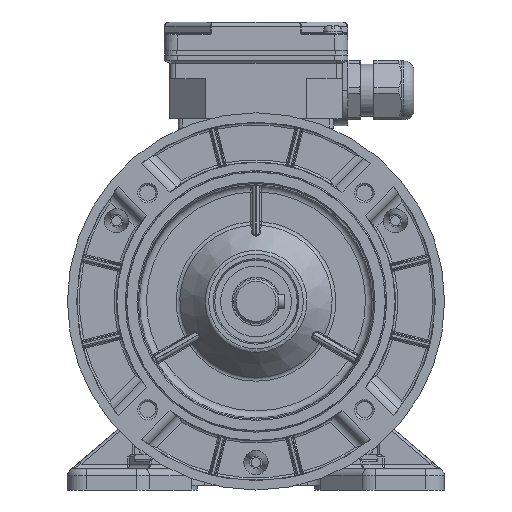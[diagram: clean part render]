
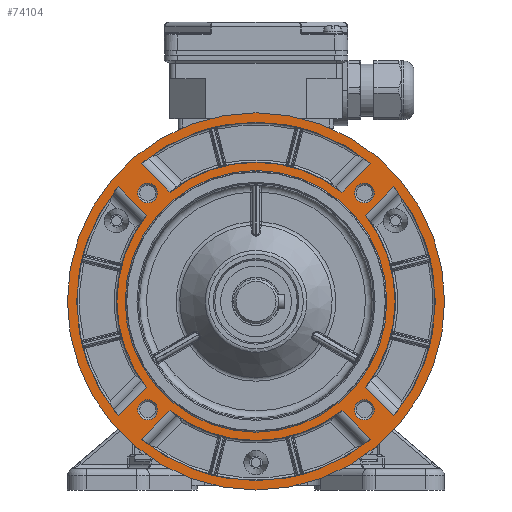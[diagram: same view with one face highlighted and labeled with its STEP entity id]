
A CAD part, left-side view. The second image highlights one B-rep face of the part: STEP entity #74104.
In plain terms, the highlighted planar face has unit normal (-1, 0, 0).
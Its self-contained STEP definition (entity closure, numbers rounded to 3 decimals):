
#4482=CIRCLE('',#78009,80.);
#4498=CIRCLE('',#78047,55.5);
#4499=CIRCLE('',#78048,4.2);
#4500=CIRCLE('',#78049,4.2);
#4501=CIRCLE('',#78050,4.2);
#4502=CIRCLE('',#78051,4.2);
#4503=CIRCLE('',#78052,59.);
#4504=CIRCLE('',#78053,76.);
#4505=CIRCLE('',#78054,59.);
#4506=CIRCLE('',#78055,76.);
#4507=CIRCLE('',#78056,59.);
#4508=CIRCLE('',#78057,76.);
#4509=CIRCLE('',#78058,59.);
#4510=CIRCLE('',#78059,76.);
#11921=ORIENTED_EDGE('',*,*,#25176,.T.);
#11922=ORIENTED_EDGE('',*,*,#25177,.T.);
#11923=ORIENTED_EDGE('',*,*,#25178,.T.);
#11924=ORIENTED_EDGE('',*,*,#25179,.T.);
#11925=ORIENTED_EDGE('',*,*,#25180,.T.);
#11926=ORIENTED_EDGE('',*,*,#25154,.T.);
#11927=ORIENTED_EDGE('',*,*,#25181,.T.);
#11928=ORIENTED_EDGE('',*,*,#25182,.T.);
#11929=ORIENTED_EDGE('',*,*,#25183,.F.);
#11930=ORIENTED_EDGE('',*,*,#25184,.F.);
#11931=ORIENTED_EDGE('',*,*,#25185,.T.);
#11932=ORIENTED_EDGE('',*,*,#25186,.F.);
#11933=ORIENTED_EDGE('',*,*,#25187,.F.);
#11934=ORIENTED_EDGE('',*,*,#25188,.T.);
#11935=ORIENTED_EDGE('',*,*,#25189,.T.);
#11936=ORIENTED_EDGE('',*,*,#25190,.T.);
#11937=ORIENTED_EDGE('',*,*,#25191,.F.);
#11938=ORIENTED_EDGE('',*,*,#25192,.F.);
#11939=ORIENTED_EDGE('',*,*,#25193,.T.);
#11940=ORIENTED_EDGE('',*,*,#25194,.T.);
#11941=ORIENTED_EDGE('',*,*,#25195,.F.);
#11942=ORIENTED_EDGE('',*,*,#25196,.F.);
#25154=EDGE_CURVE('',#32223,#32223,#4482,.T.);
#25176=EDGE_CURVE('',#32229,#32229,#4498,.F.);
#25177=EDGE_CURVE('',#32230,#32230,#4499,.F.);
#25178=EDGE_CURVE('',#32231,#32231,#4500,.F.);
#25179=EDGE_CURVE('',#32232,#32232,#4501,.F.);
#25180=EDGE_CURVE('',#32233,#32233,#4502,.F.);
#25181=EDGE_CURVE('',#32234,#32235,#36793,.T.);
#25182=EDGE_CURVE('',#32235,#32236,#4503,.T.);
#25183=EDGE_CURVE('',#32237,#32236,#36794,.T.);
#25184=EDGE_CURVE('',#32234,#32237,#4504,.T.);
#25185=EDGE_CURVE('',#32238,#32239,#4505,.T.);
#25186=EDGE_CURVE('',#32240,#32239,#36795,.T.);
#25187=EDGE_CURVE('',#32241,#32240,#4506,.T.);
#25188=EDGE_CURVE('',#32241,#32238,#36796,.T.);
#25189=EDGE_CURVE('',#32242,#32243,#36797,.T.);
#25190=EDGE_CURVE('',#32243,#32244,#4507,.T.);
#25191=EDGE_CURVE('',#32245,#32244,#36798,.T.);
#25192=EDGE_CURVE('',#32242,#32245,#4508,.T.);
#25193=EDGE_CURVE('',#32246,#32247,#36799,.T.);
#25194=EDGE_CURVE('',#32247,#32248,#4509,.T.);
#25195=EDGE_CURVE('',#32249,#32248,#36800,.T.);
#25196=EDGE_CURVE('',#32246,#32249,#4510,.T.);
#32223=VERTEX_POINT('',#108914);
#32229=VERTEX_POINT('',#108976);
#32230=VERTEX_POINT('',#108978);
#32231=VERTEX_POINT('',#108980);
#32232=VERTEX_POINT('',#108982);
#32233=VERTEX_POINT('',#108984);
#32234=VERTEX_POINT('',#108986);
#32235=VERTEX_POINT('',#108987);
#32236=VERTEX_POINT('',#108989);
#32237=VERTEX_POINT('',#108991);
#32238=VERTEX_POINT('',#108994);
#32239=VERTEX_POINT('',#108995);
#32240=VERTEX_POINT('',#108997);
#32241=VERTEX_POINT('',#108999);
#32242=VERTEX_POINT('',#109002);
#32243=VERTEX_POINT('',#109003);
#32244=VERTEX_POINT('',#109005);
#32245=VERTEX_POINT('',#109007);
#32246=VERTEX_POINT('',#109010);
#32247=VERTEX_POINT('',#109011);
#32248=VERTEX_POINT('',#109013);
#32249=VERTEX_POINT('',#109015);
#36793=LINE('',#108985,#40549);
#36794=LINE('',#108990,#40550);
#36795=LINE('',#108996,#40551);
#36796=LINE('',#109000,#40552);
#36797=LINE('',#109001,#40553);
#36798=LINE('',#109006,#40554);
#36799=LINE('',#109009,#40555);
#36800=LINE('',#109014,#40556);
#40549=VECTOR('',#86644,1000.);
#40550=VECTOR('',#86647,1000.);
#40551=VECTOR('',#86652,1000.);
#40552=VECTOR('',#86655,1000.);
#40553=VECTOR('',#86656,1000.);
#40554=VECTOR('',#86659,1000.);
#40555=VECTOR('',#86662,1000.);
#40556=VECTOR('',#86665,1000.);
#44322=EDGE_LOOP('',(#11921));
#44323=EDGE_LOOP('',(#11922));
#44324=EDGE_LOOP('',(#11923));
#44325=EDGE_LOOP('',(#11924));
#44326=EDGE_LOOP('',(#11925));
#44327=EDGE_LOOP('',(#11926));
#44328=EDGE_LOOP('',(#11927,#11928,#11929,#11930));
#44329=EDGE_LOOP('',(#11931,#11932,#11933,#11934));
#44330=EDGE_LOOP('',(#11935,#11936,#11937,#11938));
#44331=EDGE_LOOP('',(#11939,#11940,#11941,#11942));
#47899=FACE_BOUND('',#44322,.T.);
#47900=FACE_BOUND('',#44323,.T.);
#47901=FACE_BOUND('',#44324,.T.);
#47902=FACE_BOUND('',#44325,.T.);
#47903=FACE_BOUND('',#44326,.T.);
#47904=FACE_BOUND('',#44327,.T.);
#47905=FACE_BOUND('',#44328,.T.);
#47906=FACE_BOUND('',#44329,.T.);
#47907=FACE_BOUND('',#44330,.T.);
#47908=FACE_BOUND('',#44331,.T.);
#50732=PLANE('',#78046);
#74104=ADVANCED_FACE('',(#47899,#47900,#47901,#47902,#47903,#47904,#47905,
#47906,#47907,#47908),#50732,.T.);
#78009=AXIS2_PLACEMENT_3D('',#108913,#86554,#86555);
#78046=AXIS2_PLACEMENT_3D('',#108974,#86632,#86633);
#78047=AXIS2_PLACEMENT_3D('',#108975,#86634,#86635);
#78048=AXIS2_PLACEMENT_3D('',#108977,#86636,#86637);
#78049=AXIS2_PLACEMENT_3D('',#108979,#86638,#86639);
#78050=AXIS2_PLACEMENT_3D('',#108981,#86640,#86641);
#78051=AXIS2_PLACEMENT_3D('',#108983,#86642,#86643);
#78052=AXIS2_PLACEMENT_3D('',#108988,#86645,#86646);
#78053=AXIS2_PLACEMENT_3D('',#108992,#86648,#86649);
#78054=AXIS2_PLACEMENT_3D('',#108993,#86650,#86651);
#78055=AXIS2_PLACEMENT_3D('',#108998,#86653,#86654);
#78056=AXIS2_PLACEMENT_3D('',#109004,#86657,#86658);
#78057=AXIS2_PLACEMENT_3D('',#109008,#86660,#86661);
#78058=AXIS2_PLACEMENT_3D('',#109012,#86663,#86664);
#78059=AXIS2_PLACEMENT_3D('',#109016,#86666,#86667);
#86554=DIRECTION('',(-1.,0.,0.));
#86555=DIRECTION('',(0.,1.,0.));
#86632=DIRECTION('',(-1.,0.,0.));
#86633=DIRECTION('',(0.,-1.,0.));
#86634=DIRECTION('',(-1.,0.,0.));
#86635=DIRECTION('',(0.,-1.,0.));
#86636=DIRECTION('',(-1.,0.,0.));
#86637=DIRECTION('',(0.,-1.,0.));
#86638=DIRECTION('',(-1.,0.,0.));
#86639=DIRECTION('',(0.,-1.,0.));
#86640=DIRECTION('',(-1.,0.,0.));
#86641=DIRECTION('',(0.,-1.,0.));
#86642=DIRECTION('',(-1.,0.,0.));
#86643=DIRECTION('',(0.,-1.,0.));
#86644=DIRECTION('',(0.,0.707,0.707));
#86645=DIRECTION('',(-1.,0.,0.));
#86646=DIRECTION('',(0.,0.,1.));
#86647=DIRECTION('',(0.,0.707,-0.707));
#86648=DIRECTION('',(-1.,0.,0.));
#86649=DIRECTION('',(0.,0.,1.));
#86650=DIRECTION('',(-1.,0.,0.));
#86651=DIRECTION('',(0.,0.,1.));
#86652=DIRECTION('',(0.,0.707,0.707));
#86653=DIRECTION('',(-1.,0.,0.));
#86654=DIRECTION('',(0.,0.,1.));
#86655=DIRECTION('',(0.,-0.707,0.707));
#86656=DIRECTION('',(0.,0.707,-0.707));
#86657=DIRECTION('',(-1.,0.,0.));
#86658=DIRECTION('',(0.,0.,1.));
#86659=DIRECTION('',(0.,-0.707,-0.707));
#86660=DIRECTION('',(-1.,0.,0.));
#86661=DIRECTION('',(0.,0.,1.));
#86662=DIRECTION('',(0.,-0.707,-0.707));
#86663=DIRECTION('',(-1.,0.,0.));
#86664=DIRECTION('',(0.,0.,1.));
#86665=DIRECTION('',(0.,-0.707,0.707));
#86666=DIRECTION('',(-1.,0.,0.));
#86667=DIRECTION('',(0.,0.,1.));
#108913=CARTESIAN_POINT('',(-44.8,0.,0.));
#108914=CARTESIAN_POINT('',(-44.8,80.,0.));
#108974=CARTESIAN_POINT('',(-44.8,0.,0.));
#108975=CARTESIAN_POINT('',(-44.8,0.,0.));
#108976=CARTESIAN_POINT('',(-44.8,-55.5,0.));
#108977=CARTESIAN_POINT('',(-44.8,-45.962,-45.962));
#108978=CARTESIAN_POINT('',(-44.8,-50.162,-45.962));
#108979=CARTESIAN_POINT('',(-44.8,-45.962,45.962));
#108980=CARTESIAN_POINT('',(-44.8,-50.162,45.962));
#108981=CARTESIAN_POINT('',(-44.8,45.962,45.962));
#108982=CARTESIAN_POINT('',(-44.8,41.762,45.962));
#108983=CARTESIAN_POINT('',(-44.8,45.962,-45.962));
#108984=CARTESIAN_POINT('',(-44.8,41.762,-45.962));
#108985=CARTESIAN_POINT('',(-44.8,-70.057,-60.157));
#108986=CARTESIAN_POINT('',(-44.8,-58.461,-48.562));
#108987=CARTESIAN_POINT('',(-44.8,-46.374,-36.475));
#108988=CARTESIAN_POINT('',(-44.8,0.,0.));
#108989=CARTESIAN_POINT('',(-44.8,-46.374,36.475));
#108990=CARTESIAN_POINT('',(-44.8,-70.057,60.157));
#108991=CARTESIAN_POINT('',(-44.8,-58.461,48.562));
#108992=CARTESIAN_POINT('',(-44.8,0.,0.));
#108993=CARTESIAN_POINT('',(-44.8,0.,0.));
#108994=CARTESIAN_POINT('',(-44.8,36.475,-46.374));
#108995=CARTESIAN_POINT('',(-44.8,-36.475,-46.374));
#108996=CARTESIAN_POINT('',(-44.8,-60.157,-70.057));
#108997=CARTESIAN_POINT('',(-44.8,-48.562,-58.461));
#108998=CARTESIAN_POINT('',(-44.8,0.,0.));
#108999=CARTESIAN_POINT('',(-44.8,48.562,-58.461));
#109000=CARTESIAN_POINT('',(-44.8,60.157,-70.057));
#109001=CARTESIAN_POINT('',(-44.8,-60.157,70.057));
#109002=CARTESIAN_POINT('',(-44.8,-48.562,58.461));
#109003=CARTESIAN_POINT('',(-44.8,-36.475,46.374));
#109004=CARTESIAN_POINT('',(-44.8,0.,0.));
#109005=CARTESIAN_POINT('',(-44.8,36.475,46.374));
#109006=CARTESIAN_POINT('',(-44.8,60.157,70.057));
#109007=CARTESIAN_POINT('',(-44.8,48.562,58.461));
#109008=CARTESIAN_POINT('',(-44.8,0.,0.));
#109009=CARTESIAN_POINT('',(-44.8,70.057,60.157));
#109010=CARTESIAN_POINT('',(-44.8,58.461,48.562));
#109011=CARTESIAN_POINT('',(-44.8,46.374,36.475));
#109012=CARTESIAN_POINT('',(-44.8,0.,0.));
#109013=CARTESIAN_POINT('',(-44.8,46.374,-36.475));
#109014=CARTESIAN_POINT('',(-44.8,70.057,-60.157));
#109015=CARTESIAN_POINT('',(-44.8,58.461,-48.562));
#109016=CARTESIAN_POINT('',(-44.8,0.,0.));
